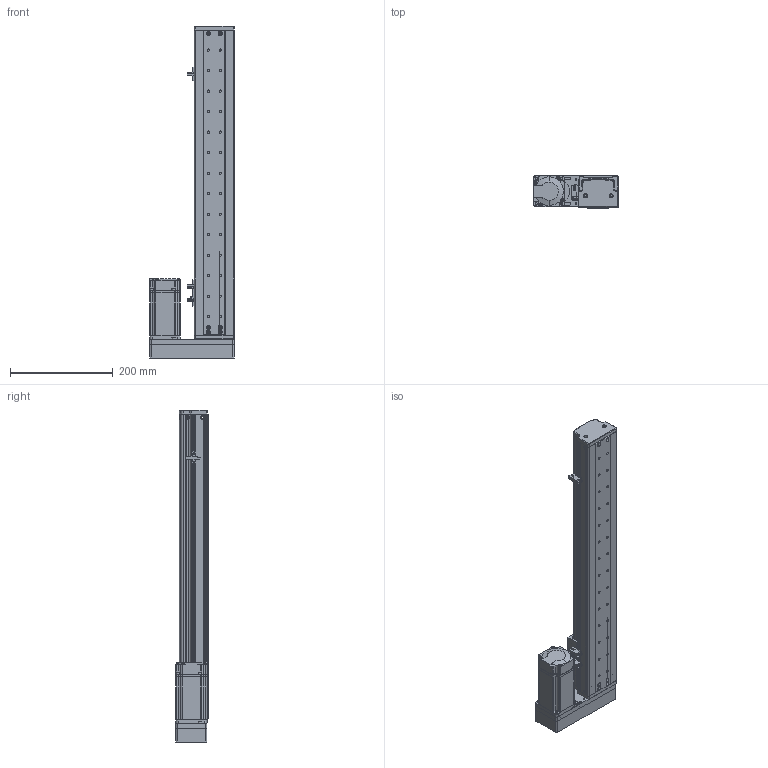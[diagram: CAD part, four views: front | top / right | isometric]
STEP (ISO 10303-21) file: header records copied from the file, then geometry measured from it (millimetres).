
FILE_DESCRIPTION (( 'STEP AP214' ), '1' );
FILE_NAME ('KSD75S-S440-MR-CM.STEP', '2019-10-18T07:18:49', ( '微软用户' ), ( '微软中国' ), 'SwSTEP 2.0', 'SolidWorks 2014', '' );
FILE_SCHEMA (( 'AUTOMOTIVE_DESIGN' ));
Length unit declared in the file: millimetre
Products named in the file (13): 覜茼え100遵圉猾敕; U倰嫖萇EEㄜSX672; 綴傷啣 ; ヶ傷啣; 75裔啣-440俴最; 75遵耀郪耜啣-440俴最; 75遵賑雄釱; MGW15H賑寢440俴最 ; 440俴最; KSD75S-S440-MR-CM; MHMD042G1CA_2_03; 75宽模组保护罩左右折; 75宽马达安装板连板左右折丝杆
Assembly tree (15 placements, depth 3):
  KSD75S-S440-MR-CM
    MGW15H賑寢440俴最 
      440俴最
    75遵賑雄釱
    75遵耀郪耜啣-440俴最  x2
    75裔啣-440俴最
    ヶ傷啣
    綴傷啣 
    U倰嫖萇EEㄜSX672  x3
    覜茼え100遵圉猾敕
    75宽马达安装板连板左右折丝杆
    75宽模组保护罩左右折
    MHMD042G1CA_2_03
Bounding box: 165 x 63 x 647.5 mm (x, y, z)
Volume: 872792.5 mm3; surface area: 549034.9 mm2
Topology: 13 solids, 14 shells, 1473 faces, 4162 edges, 2717 vertices
Faces by surface type: cylinder 699, plane 627, cone 129, bspline 18
Entity records: 47226 total; most frequent: CARTESIAN_POINT 8968, DIRECTION 7064, ORIENTED_EDGE 6604, EDGE_CURVE 3373, AXIS2_PLACEMENT_3D 2592, VERTEX_POINT 2235, LINE 1880, VECTOR 1880
